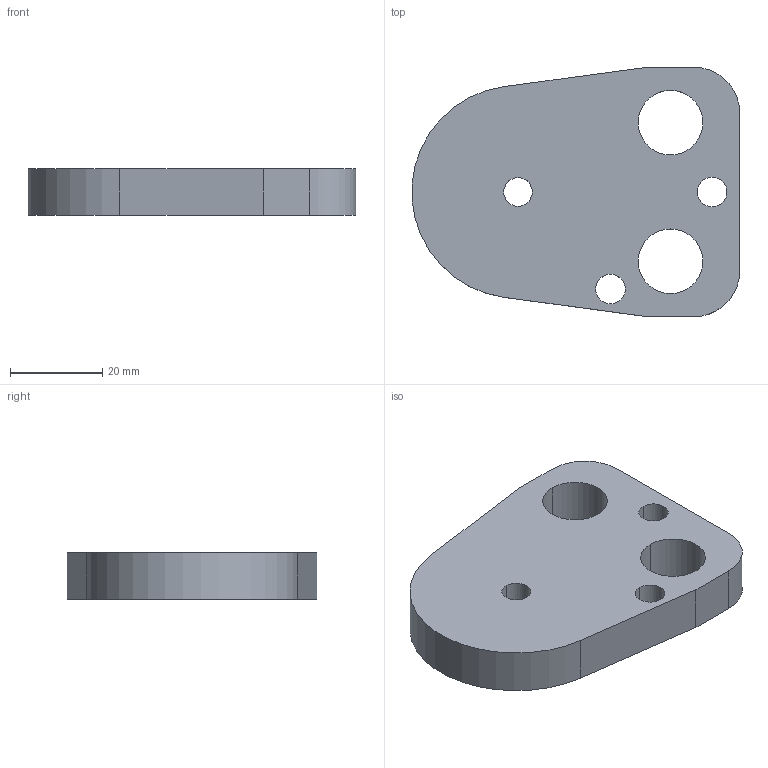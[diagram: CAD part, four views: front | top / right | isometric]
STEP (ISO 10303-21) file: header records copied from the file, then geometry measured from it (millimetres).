
FILE_DESCRIPTION(/* description */ (''),/* implementation_level */ '2;1');
FILE_NAME(/* name */ '3d_bpc32-10_03402_r00.stp',/* time_stamp */ '2011-01-10T14:17:09+09:00',/* author */ ('MISUMI'),/* organization */ (''),/* preprocessor_version */ 'ST-DEVELOPER v11',/* originating_system */ 'UGS - NX 5.0',/* authorisation */ '');
FILE_SCHEMA (('CONFIG_CONTROL_DESIGN'));
Length unit declared in the file: millimetre
Products named in the file (1): 3d_bpc32-10_03402_r00
Bounding box: 70.92 x 54 x 10 mm (x, y, z)
Volume: 28719.3 mm3; surface area: 9362.6 mm2
Topology: 1 solids, 1 shells, 20 faces, 54 edges, 36 vertices
Faces by surface type: cylinder 13, plane 7
Entity records: 750 total; most frequent: DIRECTION 122, CARTESIAN_POINT 111, ORIENTED_EDGE 108, EDGE_CURVE 54, AXIS2_PLACEMENT_3D 47, VERTEX_POINT 36, EDGE_LOOP 30, LINE 28
